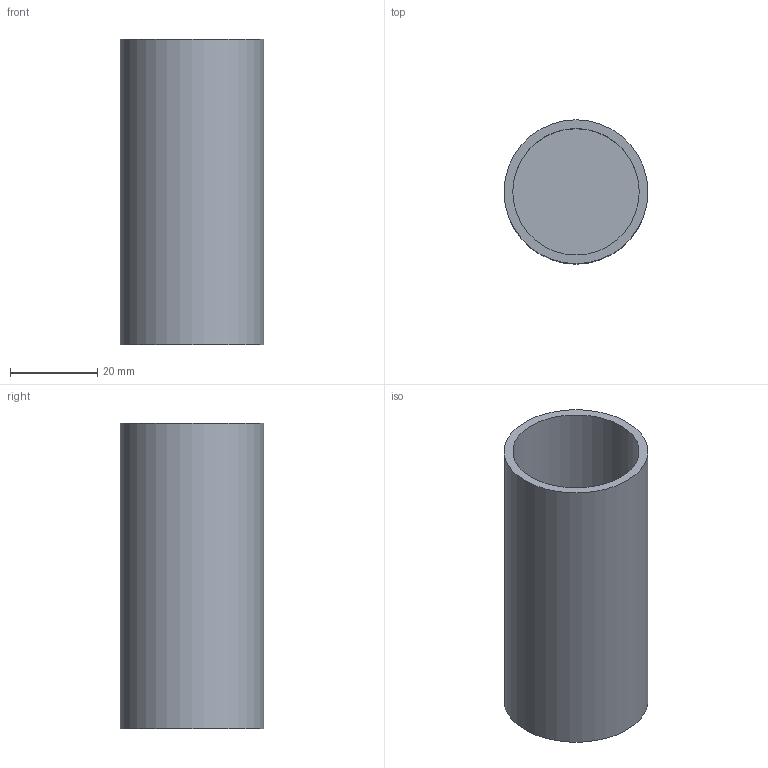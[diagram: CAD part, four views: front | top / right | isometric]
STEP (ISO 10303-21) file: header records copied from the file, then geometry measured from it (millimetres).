
FILE_DESCRIPTION(/* description */ ('STEP AP242 Edition 2','CAx-IF Rec.Pracs.---Representation and Presentation of Product Manufacturing Information (PMI)---4.0---2014-10-13','CAx-IF Rec.Pracs.---3D Tessellated Geometry---0.4---2014-09-14','2;1','CAx-IF Rec.Pracs.---User Defined Attributes---1.5---2016-08-15'),/* implementation_level */ '2;1');
FILE_NAME(/* name */ '695afef1d13f1a023388945f',/* time_stamp */ '2026-01-04T23:59:45Z',/* author */ (''),/* organization */ (''),/* preprocessor_version */ 'ST-DEVELOPER v20',/* originating_system */ 'ONSHAPE BY PTC INC, 1.208',/* authorisation */ ' ');
FILE_SCHEMA (('AP242_MANAGED_MODEL_BASED_3D_ENGINEERING_MIM_LF { 1 0 10303 442 3 1 4 }'));
Length unit declared in the file: metre
Products named in the file (1): Part 1
Bounding box: 33 x 33 x 70 mm (x, y, z)
Volume: 20239.7 mm3; surface area: 14434 mm2
Topology: 1 solids, 1 shells, 7 faces, 9 edges, 6 vertices
Faces by surface type: plane 4, cylinder 3
Full cylindrical faces by diameter (mm): 29 x2, 33 x1
Entity records: 156 total; most frequent: DIRECTION 28, CARTESIAN_POINT 20, AXIS2_PLACEMENT_3D 14, ORIENTED_EDGE 12, EDGE_LOOP 12, FACE_BOUND 12, ADVANCED_FACE 7, EDGE_CURVE 6
